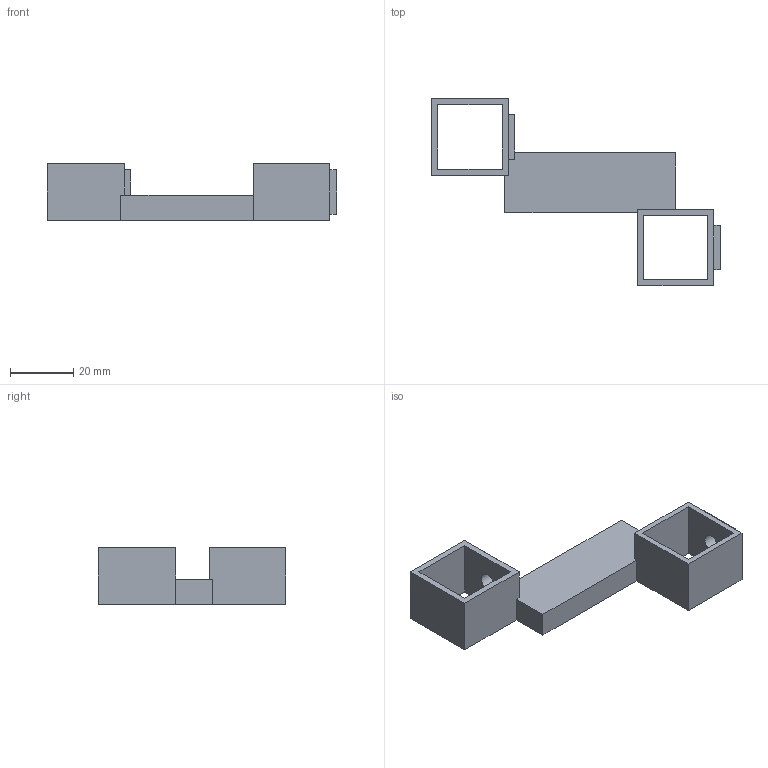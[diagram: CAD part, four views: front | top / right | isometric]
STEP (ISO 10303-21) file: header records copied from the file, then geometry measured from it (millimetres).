
FILE_DESCRIPTION(('Open CASCADE Model'),'2;1');
FILE_NAME('Open CASCADE Shape Model','2026-10-23T08:22:13',('Author'),( 'Open CASCADE'),'Open CASCADE STEP processor 7.9','Open CASCADE 7.9' ,'Unknown');
FILE_SCHEMA(('AUTOMOTIVE_DESIGN { 1 0 10303 214 1 1 1 1 }'));
Length unit declared in the file: millimetre
Products named in the file (1): Open CASCADE STEP translator 7.9 19
Bounding box: 91.4 x 59.2 x 18 mm (x, y, z)
Volume: 14754.7 mm3; surface area: 10183.2 mm2
Topology: 1 solids, 1 shells, 36 faces, 99 edges, 66 vertices
Faces by surface type: plane 34, cylinder 2
Full cylindrical faces by diameter (mm): 5.5 x2
Entity records: 2440 total; most frequent: CARTESIAN_POINT 400, DIRECTION 375, LINE 289, VECTOR 289, ORIENTED_EDGE 198, PCURVE 198, DEFINITIONAL_REPRESENTATION 198, EDGE_CURVE 99
